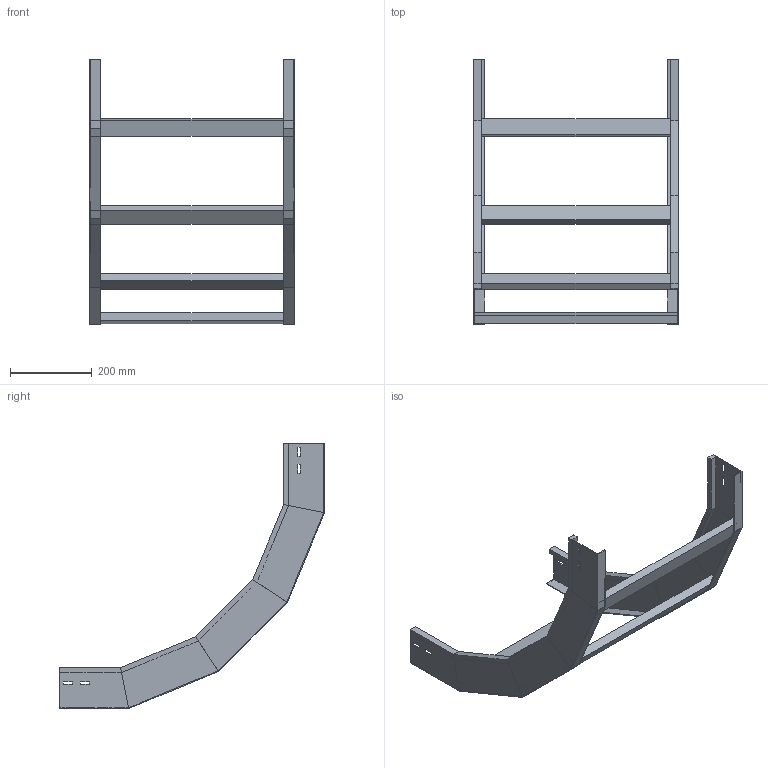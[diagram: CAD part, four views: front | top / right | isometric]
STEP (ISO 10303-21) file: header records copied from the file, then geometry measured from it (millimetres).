
FILE_DESCRIPTION (( 'STEP AP214' ), '1' );
FILE_NAME ('A2X30B5D500XX.step', '2025-03-20T10:19:42', ( '' ), ( '' ), 'SwSTEP 2.0', 'SolidWorks 2023', '' );
FILE_SCHEMA (( 'AUTOMOTIVE_DESIGN' ));
Length unit declared in the file: millimetre
Products named in the file (3): A2X30B5D500XX; LONGH.SALITA_90°_H100_R500; TRAVERSINO_500
Assembly tree (6 placements, depth 2):
  A2X30B5D500XX
    LONGH.SALITA_90°_H100_R500  x2
    TRAVERSINO_500  x4
Bounding box: 500 x 649.05 x 649.05 mm (x, y, z)
Volume: 2446445.4 mm3; surface area: 807183.1 mm2
Topology: 6 solids, 6 shells, 140 faces, 320 edges, 192 vertices
Faces by surface type: plane 140
Entity records: 1872 total; most frequent: CARTESIAN_POINT 309, ORIENTED_EDGE 296, DIRECTION 294, LINE 148, VECTOR 148, EDGE_CURVE 148, VERTEX_POINT 88, AXIS2_PLACEMENT_3D 73
